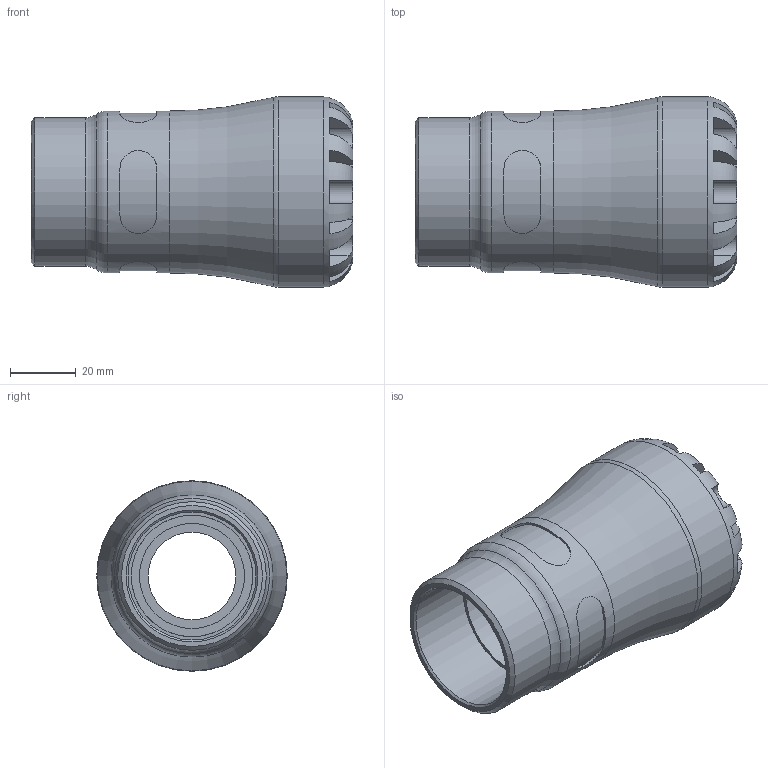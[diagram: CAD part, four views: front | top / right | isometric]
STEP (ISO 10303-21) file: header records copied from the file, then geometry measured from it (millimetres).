
FILE_DESCRIPTION(/* description */ ('PLASSON FEMALE INTEGRAL BRASS THREAD 32X1.1/4" SERIES 1'),/* implementation_level */ '2;1');
FILE_NAME(/* name */ 'C:\Dropbox\KIMPROJECTS-Inventor\99-16-3568-Processing\1073\107300032013_197300032013.ipt.stp',/* time_stamp */ '2017-01-22T11:35:32+02:00',/* author */ ('KIM'),/* organization */ (''),/* preprocessor_version */ 'ST-DEVELOPER v15.6',/* originating_system */ 'Autodesk Inventor 2015',/* authorisation */ '');
FILE_SCHEMA (('AUTOMOTIVE_DESIGN { 1 0 10303 214 3 1 1 }'));
Length unit declared in the file: millimetre
Products named in the file (1): 107300032013_197300032013
Bounding box: 98 x 58 x 58 mm (x, y, z)
Volume: 112020.7 mm3; surface area: 30181.6 mm2
Topology: 1 solids, 1 shells, 106 faces, 259 edges, 162 vertices
Faces by surface type: plane 62, cylinder 36, torus 5, cone 3
Full cylindrical faces by diameter (mm): 26.667 x1, 32 x2, 37.004 x1, 38.952 x1, 45.24 x1, 49.3 x1, 58 x1
Entity records: 3792 total; most frequent: CARTESIAN_POINT 1423, DIRECTION 480, ORIENTED_EDGE 474, EDGE_CURVE 237, AXIS2_PLACEMENT_3D 200, VERTEX_POINT 157, EDGE_LOOP 132, FACE_OUTER_BOUND 106
